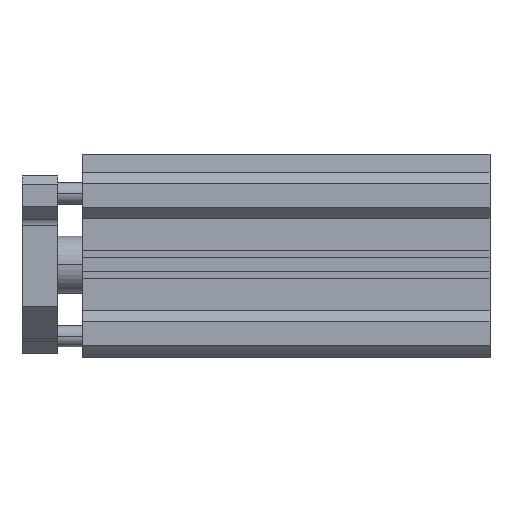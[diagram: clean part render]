
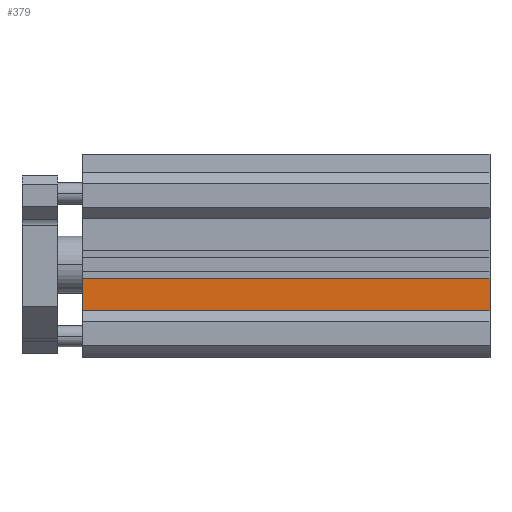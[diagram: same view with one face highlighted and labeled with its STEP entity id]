
A CAD part, top view. The second image highlights one B-rep face of the part: STEP entity #379.
In plain terms, the highlighted planar face has unit normal (0, 0, 1).
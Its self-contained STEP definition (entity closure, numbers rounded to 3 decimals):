
#379 = ADVANCED_FACE ( 'NONE', ( #1661 ), #1713, .F. ) ;
#412 = DIRECTION ( 'NONE',  ( 0., -1., 0. ) ) ;
#430 = CARTESIAN_POINT ( 'NONE',  ( 114.5, -4., 23. ) ) ;
#456 = CARTESIAN_POINT ( 'NONE',  ( 0., -13., 23. ) ) ;
#580 = DIRECTION ( 'NONE',  ( 0., -1., 0. ) ) ;
#957 = AXIS2_PLACEMENT_3D ( 'NONE', #4110, #3290, #580 ) ;
#960 = DIRECTION ( 'NONE',  ( 0., -1., 0. ) ) ;
#1006 = ORIENTED_EDGE ( 'NONE', *, *, #4286, .F. ) ;
#1589 = CARTESIAN_POINT ( 'NONE',  ( 114.5, -4., 23. ) ) ;
#1627 = EDGE_CURVE ( 'NONE', #2166, #2870, #1967, .T. ) ;
#1661 = FACE_OUTER_BOUND ( 'NONE', #5097, .T. ) ;
#1713 = PLANE ( 'NONE',  #957 ) ;
#1773 = VECTOR ( 'NONE', #960, 1000. ) ;
#1800 = CARTESIAN_POINT ( 'NONE',  ( 0., -4., 23. ) ) ;
#1967 = LINE ( 'NONE', #430, #3205 ) ;
#1994 = DIRECTION ( 'NONE',  ( -1., 0., 0. ) ) ;
#2161 = CARTESIAN_POINT ( 'NONE',  ( 114.5, -13., 23. ) ) ;
#2166 = VERTEX_POINT ( 'NONE', #1589 ) ;
#2285 = VERTEX_POINT ( 'NONE', #456 ) ;
#2441 = ORIENTED_EDGE ( 'NONE', *, *, #4489, .T. ) ;
#2623 = DIRECTION ( 'NONE',  ( -1., 0., 0. ) ) ;
#2672 = VECTOR ( 'NONE', #412, 1000. ) ;
#2870 = VERTEX_POINT ( 'NONE', #4514 ) ;
#3112 = CARTESIAN_POINT ( 'NONE',  ( 114.5, -13., 23. ) ) ;
#3205 = VECTOR ( 'NONE', #1994, 1000. ) ;
#3290 = DIRECTION ( 'NONE',  ( 0., 0., -1. ) ) ;
#3302 = LINE ( 'NONE', #1800, #1773 ) ;
#3392 = EDGE_CURVE ( 'NONE', #4592, #2285, #3401, .T. ) ;
#3401 = LINE ( 'NONE', #3112, #3464 ) ;
#3464 = VECTOR ( 'NONE', #2623, 1000. ) ;
#3859 = ORIENTED_EDGE ( 'NONE', *, *, #1627, .T. ) ;
#4110 = CARTESIAN_POINT ( 'NONE',  ( 114.5, -4., 23. ) ) ;
#4286 = EDGE_CURVE ( 'NONE', #2166, #4592, #4323, .T. ) ;
#4323 = LINE ( 'NONE', #4662, #2672 ) ;
#4489 = EDGE_CURVE ( 'NONE', #2870, #2285, #3302, .T. ) ;
#4514 = CARTESIAN_POINT ( 'NONE',  ( 0., -4., 23. ) ) ;
#4592 = VERTEX_POINT ( 'NONE', #2161 ) ;
#4662 = CARTESIAN_POINT ( 'NONE',  ( 114.5, -4., 23. ) ) ;
#4826 = ORIENTED_EDGE ( 'NONE', *, *, #3392, .F. ) ;
#5097 = EDGE_LOOP ( 'NONE', ( #2441, #4826, #1006, #3859 ) ) ;
